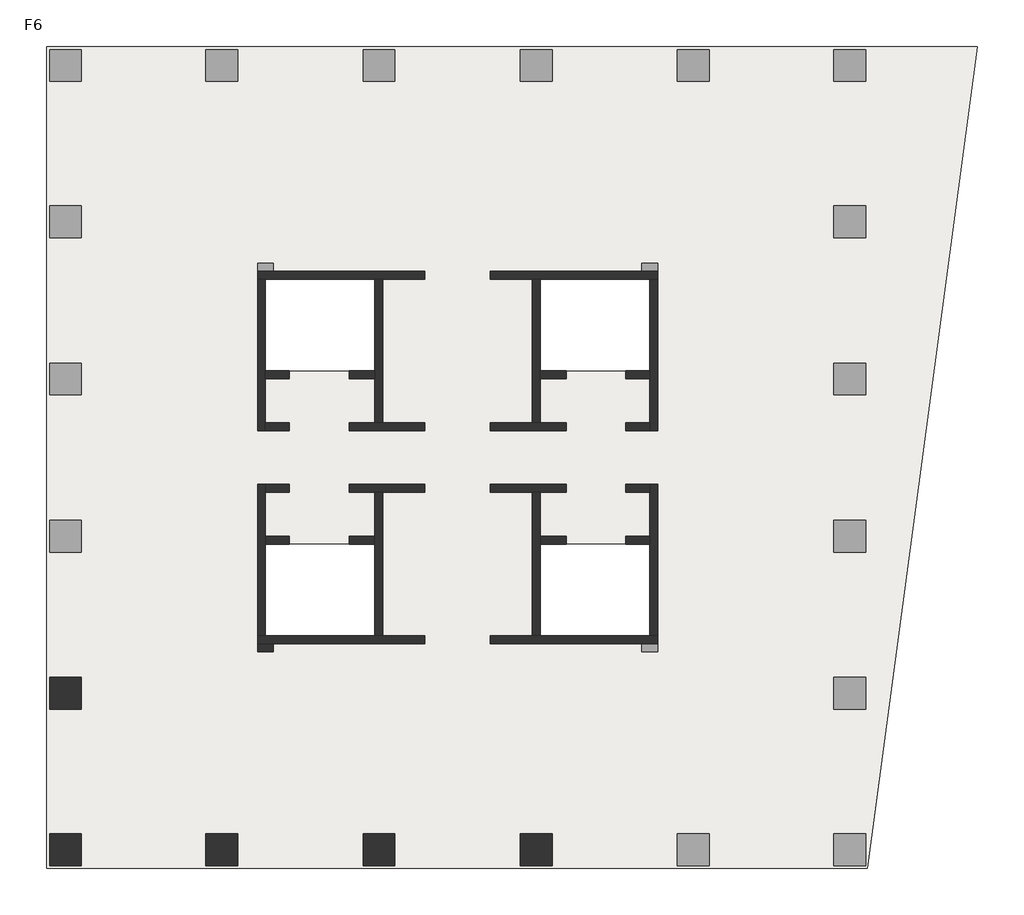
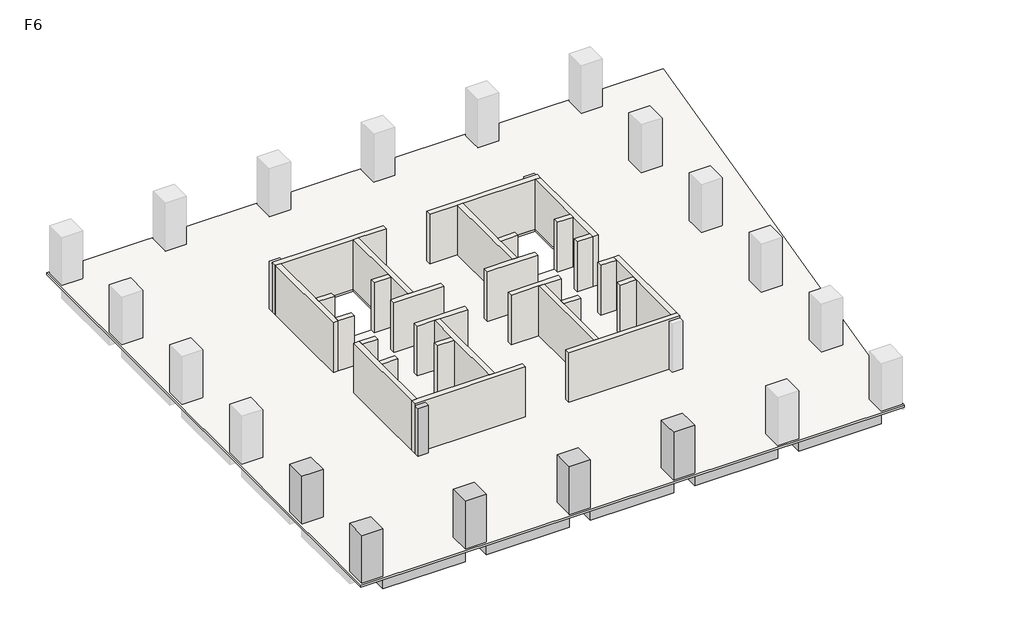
# One storey, part 1 of 2: 28 walls, 6 columns, 5 beams, 1 slab.
"""IFC4 building model written with IfcOpenShell, lengths in millimetres."""

import ifcopenshell
import ifcopenshell.guid

model = None  # the IFC model being written
_history = None  # IfcOwnerHistory: only IFC2X3 demands one
_inside = {}  # id of a spatial element -> (the spatial element, [elements in it])
_under = {}  # id of a project, library or spatial element -> (it, [spatial elements below it])
_declared = {}  # id of a project -> (the project, [libraries it declares])
_typed = {}  # id of a type object -> (the type object, [elements of that type])
_made_of = {}  # id of a material, layer set ... -> (it, [elements and type objects made of it])


def new_model(schema):
    """Start an empty IFC model of exactly this schema.

    Asked for "IFC4X3", IfcOpenShell would pick the latest addendum, in which some entities
    have other attributes; the version numbers below select the first issue.
    IFC2X3 requires an IfcOwnerHistory on every rooted entity: one is made here for all.
    """
    global model, _history
    if schema == "IFC4X3":
        model = ifcopenshell.file(schema_version=(4, 3, 0, 0))
    else:
        model = ifcopenshell.file(schema=schema)
    _inside.clear()
    _under.clear()
    _declared.clear()
    _typed.clear()
    _made_of.clear()
    _history = None
    if model.schema == "IFC2X3":
        org = make("IfcOrganization", Name="unknown")
        user = make(
            "IfcPersonAndOrganization",
            ThePerson=make("IfcPerson", FamilyName="unknown"),
            TheOrganization=org,
        )
        app = make(
            "IfcApplication",
            ApplicationDeveloper=org,
            Version="unknown",
            ApplicationFullName="unknown",
            ApplicationIdentifier="unknown",
        )
        _history = make(
            "IfcOwnerHistory",
            OwningUser=user,
            OwningApplication=app,
            ChangeAction="ADDED",
            CreationDate=0,
        )
    return model


def make(cls, **values):
    """One entity of the class cls with the attributes given. An attribute that is None is left unset."""
    return model.create_entity(
        cls, **{name: value for name, value in values.items() if value is not None}
    )


def rooted(cls, **values):
    """An entity with a GlobalId (a new one), such as an element, a storey or a relation."""
    return make(cls, GlobalId=ifcopenshell.guid.new(), OwnerHistory=_history, **values)


def si_unit(unit_type, name, prefix=None):
    """IfcSIUnit, for example si_unit("LENGTHUNIT", "METRE", prefix="MILLI")."""
    return make("IfcSIUnit", UnitType=unit_type, Prefix=prefix, Name=name)


def assignment(units):
    """IfcUnitAssignment: the units of a project."""
    return None if units is None else make("IfcUnitAssignment", Units=units)


def point(xyz):
    """IfcCartesianPoint."""
    return None if xyz is None else make("IfcCartesianPoint", Coordinates=xyz)


def direction(xyz):
    """IfcDirection."""
    return None if xyz is None else make("IfcDirection", DirectionRatios=xyz)


def frame(location, z_axis=None, x_axis=None):
    """IfcAxis2Placement3D, a coordinate frame: its origin and axes. An axis left out is left unset."""
    return make(
        "IfcAxis2Placement3D",
        Location=point(location),
        Axis=direction(z_axis),
        RefDirection=direction(x_axis),
    )


def origin():
    """The frame at (0, 0, 0) with its axes left unset."""
    return frame((0.0, 0.0, 0.0))


def place(relative_to, where):
    """IfcLocalPlacement: puts the frame where relative to a parent placement (None: the world)."""
    return make(
        "IfcLocalPlacement", PlacementRelTo=relative_to, RelativePlacement=where
    )


def context(
    kind, dimensions, precision=None, world=None, true_north=None, identifier=None
):
    """IfcGeometricRepresentationContext, for example the 3D "Model" context."""
    return make(
        "IfcGeometricRepresentationContext",
        ContextIdentifier=identifier,
        ContextType=kind,
        CoordinateSpaceDimension=dimensions,
        Precision=precision,
        WorldCoordinateSystem=world,
        TrueNorth=true_north,
    )


def project(units=None, contexts=None):
    """IfcProject with its units and contexts."""
    return rooted(
        "IfcProject",
        Name="project",
        RepresentationContexts=contexts,
        UnitsInContext=assignment(units),
    )


def spatial(cls, under=None, at=None, **own):
    """A site, building, storey or space (cls), placed at a placement, below another one or the project."""
    s = rooted(cls, ObjectPlacement=at, **own)
    if under is not None:
        _under.setdefault(under.id(), (under, []))[1].append(s)
    return s


def polyline(points):
    """IfcPolyline through the points."""
    return make("IfcPolyline", Points=[point(p) for p in points])


def outline(outer, holes=None, kind="AREA"):
    """IfcArbitraryClosedProfileDef: a profile drawn as a closed curve; with holes, ...WithVoids."""
    if holes is None:
        return make("IfcArbitraryClosedProfileDef", ProfileType=kind, OuterCurve=outer)
    return make(
        "IfcArbitraryProfileDefWithVoids",
        ProfileType=kind,
        OuterCurve=outer,
        InnerCurves=holes,
    )


def extrude(swept, where, along, depth):
    """IfcExtrudedAreaSolid: the profile swept, set in the frame where, extruded along a direction by depth."""
    return make(
        "IfcExtrudedAreaSolid",
        SweptArea=swept,
        Position=where,
        ExtrudedDirection=direction(along),
        Depth=depth,
    )


def faces_of(points, faces, orient=None, outer=None):
    """IfcFace entities. A face is a list of loops; a loop is a list of indices into points, from 0.

    orient and outer hold one flag for each loop. By default every Orientation is true, the
    first loop of a face is its IfcFaceOuterBound and the others are IfcFaceBound.
    """
    made = []
    for i, loops in enumerate(faces):
        bounds = []
        for j, loop in enumerate(loops):
            is_outer = j == 0 if outer is None else outer[i][j]
            bounds.append(
                make(
                    "IfcFaceOuterBound" if is_outer else "IfcFaceBound",
                    Bound=make("IfcPolyLoop", Polygon=[points[k] for k in loop]),
                    Orientation=True if orient is None else orient[i][j],
                )
            )
        made.append(make("IfcFace", Bounds=bounds))
    return made


def faceted_brep(points, faces, orient=None, outer=None, voids=None):
    """IfcFacetedBrep: a solid bounded by flat faces; with voids (closed shells), ...WithVoids."""
    shared = [point(p) for p in points]
    hull = make("IfcClosedShell", CfsFaces=faces_of(shared, faces, orient, outer))
    if voids is None:
        return make("IfcFacetedBrep", Outer=hull)
    return make(
        "IfcFacetedBrepWithVoids",
        Outer=hull,
        Voids=[
            make(cls, CfsFaces=faces_of(shared, fs, o, b)) for cls, fs, o, b in voids
        ],
    )


def shape(context_of_items, identifier, shape_type, items):
    """IfcShapeRepresentation: the items that make up one representation, for example the "Body"."""
    return make(
        "IfcShapeRepresentation",
        ContextOfItems=context_of_items,
        RepresentationIdentifier=identifier,
        RepresentationType=shape_type,
        Items=items,
    )


def made_of(thing, what):
    """Note that an element or type object is made of a material, layer set ...; save() writes the relation."""
    if what is not None:
        _made_of.setdefault(what.id(), (what, []))[1].append(thing)
    return thing


def element(
    cls,
    number,
    at=None,
    inside=None,
    cuts=None,
    type_object=None,
    material=None,
    context=None,
    identifier="Body",
    shape_type=None,
    held_by="IfcProductDefinitionShape",
    body=None,
    shapes=None,
    **own,
):
    """One element of the class cls, such as IfcWall. Its Tag is "e" and its number.

    at: its placement. inside: the storey or other place that contains it. cuts: it is an
    opening in that element (IfcRelVoidsElement). A single representation is given by context,
    identifier, shape_type and body (its items); several are given by shapes. held_by: the class
    of the entity that holds the representations. save() writes the other relations.
    """
    e = rooted(cls, Tag="e%d" % number, ObjectPlacement=at, **own)
    if body is not None:
        shapes = [shape(context, identifier, shape_type, body)]
    if shapes is not None:
        e.Representation = make(held_by, Representations=shapes)
    if inside is not None:
        _inside.setdefault(inside.id(), (inside, []))[1].append(e)
    if cuts is not None:
        rooted(
            "IfcRelVoidsElement", RelatingBuildingElement=cuts, RelatedOpeningElement=e
        )
    if type_object is not None:
        _typed.setdefault(type_object.id(), (type_object, []))[1].append(e)
    return made_of(e, material)


def aggregate(whole, parts):
    """IfcRelAggregates: a whole, such as a stair, and the parts it consists of."""
    return rooted("IfcRelAggregates", RelatingObject=whole, RelatedObjects=parts)


def save(model, path):
    """Write the relations noted so far, then the file.

    IfcRelAggregates (storeys below a building ...), IfcRelContainedInSpatialStructure (elements
    in a storey), IfcRelDefinesByType, IfcRelAssociatesMaterial and IfcRelDeclares: one each for
    every whole, place, type object, material and project.
    """
    for whole, parts in _under.values():
        aggregate(whole, parts)
    for where, things in _inside.values():
        rooted(
            "IfcRelContainedInSpatialStructure",
            RelatedElements=things,
            RelatingStructure=where,
        )
    for kind, things in _typed.values():
        rooted("IfcRelDefinesByType", RelatedObjects=things, RelatingType=kind)
    for what, things in _made_of.values():
        rooted("IfcRelAssociatesMaterial", RelatedObjects=things, RelatingMaterial=what)
    for by, libraries in _declared.values():
        rooted("IfcRelDeclares", RelatingContext=by, RelatedDefinitions=libraries)
    model.write(path)


model = new_model("IFC4")

# Units and contexts
model_context = context("Model", 3, world=origin())
ifc_project = project(units=[si_unit("LENGTHUNIT", "METRE", prefix="MILLI")], contexts=[model_context])

# Site, building, storey
site = spatial("IfcSite", under=ifc_project)
building = spatial("IfcBuilding", under=site)
storey = spatial("IfcBuildingStorey", under=building, Name="F6", Elevation=24000.0)

# Beams
placement = place(None, origin())
element("IfcBeam", 1, ObjectType="混凝土 - 矩形梁 : KL(5)-800x1000", at=placement, inside=storey, context=model_context, shape_type="SweptSolid", body=[
    extrude(outline(polyline([(-12472.6742169, -13948.9501342), (-12472.6742169, -13148.9501342), (-6222.6742169, -13148.9501342), (-6222.6742169, -13948.9501342), (-12472.6742169, -13948.9501342)])), frame((0.0, 0.0, 23000.0), z_axis=(0.0, 0.0, 1.0), x_axis=(1.0, 0.0, 0.0)), (0.0, 0.0, 1.0), 840.0),
    extrude(outline(polyline([(25327.3257831, -13148.9501342), (25327.3257831, -13948.9501342), (19077.3257831, -13948.9501342), (19077.3257831, -13148.9501342), (25327.3257831, -13148.9501342)])), frame((0.0, 0.0, 23000.0), z_axis=(0.0, 0.0, 1.0), x_axis=(1.0, 0.0, 0.0)), (0.0, 0.0, 1.0), 840.0),
    extrude(outline(polyline([(-4622.6742169, -13948.9501342), (-4622.6742169, -13148.9501342), (1677.3257831, -13148.9501342), (1677.3257831, -13948.9501342), (-4622.6742169, -13948.9501342)])), frame((0.0, 0.0, 23000.0), z_axis=(0.0, 0.0, 1.0), x_axis=(1.0, 0.0, 0.0)), (0.0, 0.0, 1.0), 840.0),
    extrude(outline(polyline([(3277.3257831, -13948.9501342), (3277.3257831, -13148.9501342), (9577.3257831, -13148.9501342), (9577.3257831, -13948.9501342), (3277.3257831, -13948.9501342)])), frame((0.0, 0.0, 23000.0), z_axis=(0.0, 0.0, 1.0), x_axis=(1.0, 0.0, 0.0)), (0.0, 0.0, 1.0), 840.0),
    extrude(outline(polyline([(11177.3257831, -13948.9501342), (11177.3257831, -13148.9501342), (17477.3257831, -13148.9501342), (17477.3257831, -13948.9501342), (11177.3257831, -13948.9501342)])), frame((0.0, 0.0, 23000.0), z_axis=(0.0, 0.0, 1.0), x_axis=(1.0, 0.0, 0.0)), (0.0, 0.0, 1.0), 840.0),
])
element("IfcBeam", 2, ObjectType="混凝土 - 矩形梁 : L1-800x500", at=placement, inside=storey, context=model_context, shape_type="Brep", body=[
    faceted_brep([(-12472.6742169, -5512.1353397, 23500.0), (-3746.9473979, -3341.556529, 23500.0), (-3173.6696907, -3198.9501342, 23500.0), (-3173.6696907, -3198.9501342, 23840.0), (-3746.9473979, -3341.556529, 23840.0), (-12472.6742169, -5512.1353397, 23840.0), (-3622.6742169, -3198.9501342, 23500.0), (-12472.6742169, -4687.7549784, 23500.0), (-3622.6742169, -2486.2624411, 23500.0), (-3622.6742169, -2798.9501342, 23500.0), (-12472.6742169, -4687.7549784, 23840.0), (-3622.6742169, -2486.2624411, 23840.0), (-3622.6742169, -3198.9501342, 23840.0)], [[[0, 1, 2, 3, 4, 5]], [[6, 2, 1, 0, 7, 8, 9]], [[8, 7, 10, 11]], [[2, 6, 12, 3]], [[9, 8, 11, 12, 6]], [[7, 0, 5, 10]], [[5, 4, 3, 12, 11, 10]]]),
])
element("IfcBeam", 3, ObjectType="混凝土 - 矩形梁 : L1-800x500", at=placement, inside=storey, context=model_context, shape_type="SweptSolid", body=[
    extrude(outline(polyline([(-3746.9473979, -3341.556529), (-3173.6696907, -3198.9501342), (-2898.7618154, -3198.9501342), (-4843.6893517, -12348.9501342), (-5661.5624638, -12348.9501342), (-3746.9473979, -3341.556529)])), frame((0.0, 0.0, 23500.0), z_axis=(0.0, 0.0, 1.0), x_axis=(1.0, 0.0, 0.0)), (0.0, 0.0, 1.0), 340.0),
])
element("IfcBeam", 4, ObjectType="混凝土 - 矩形梁 : L1-800x500", at=placement, inside=storey, context=model_context, shape_type="SweptSolid", body=[
    extrude(outline(polyline([(2877.3257831, -12348.9501342), (2077.3257831, -12348.9501342), (2077.3257831, -2798.9501342), (2877.3257831, -2798.9501342), (2877.3257831, -12348.9501342)])), frame((0.0, 0.0, 23500.0), z_axis=(0.0, 0.0, 1.0), x_axis=(1.0, 0.0, 0.0)), (0.0, 0.0, 1.0), 340.0),
])
element("IfcBeam", 5, ObjectType="混凝土 - 矩形梁 : L1-800x500", at=placement, inside=storey, context=model_context, shape_type="SweptSolid", body=[
    extrude(outline(polyline([(10777.3257831, -12348.9501342), (9977.3257831, -12348.9501342), (9977.3257831, -2798.9501342), (10777.3257831, -2798.9501342), (10777.3257831, -12348.9501342)])), frame((0.0, 0.0, 23500.0), z_axis=(0.0, 0.0, 1.0), x_axis=(1.0, 0.0, 0.0)), (0.0, 0.0, 1.0), 340.0),
])

# Columns
element("IfcColumn", 6, ObjectType="混凝土 - 矩形 - 柱 : Z1-1600x1600", at=placement, inside=storey, context=model_context, shape_type="Brep", body=[
    faceted_brep([(-12472.6742169, -4498.9501342, 24000.0), (-12472.6742169, -6098.9501342, 24000.0), (-14072.6742169, -6098.9501342, 24000.0), (-14072.6742169, -4498.9501342, 24000.0), (-12472.6742169, -4498.9501342, 27840.0), (-12472.6742169, -6098.9501342, 27840.0), (-13272.6742169, -6098.9501342, 27840.0), (-14072.6742169, -6098.9501342, 27840.0), (-14072.6742169, -6098.9501342, 27000.0), (-14072.6742169, -4498.9501342, 27840.0), (-14072.6742169, -4498.9501342, 27000.0), (-13272.6742169, -4498.9501342, 27840.0)], [[[0, 1, 2, 3]], [[1, 0, 4, 5]], [[2, 1, 5, 6, 7, 8]], [[3, 2, 8, 7, 9, 10]], [[0, 3, 10, 9, 11, 4]], [[5, 4, 11, 9, 7, 6]]]),
])
element("IfcColumn", 7, ObjectType="混凝土 - 矩形 - 柱 : Z1-1600x1600", at=placement, inside=storey, context=model_context, shape_type="SweptSolid", body=[
    extrude(outline(polyline([(-12472.6742169, -12348.9501342), (-12472.6742169, -13948.9501342), (-14072.6742169, -13948.9501342), (-14072.6742169, -12348.9501342), (-12472.6742169, -12348.9501342)])), frame((0.0, 0.0, 24000.0), z_axis=(0.0, 0.0, 1.0), x_axis=(1.0, 0.0, 0.0)), (0.0, 0.0, 1.0), 3840.0),
])
element("IfcColumn", 8, ObjectType="混凝土 - 矩形 - 柱 : Z1-1600x1600", at=placement, inside=storey, context=model_context, shape_type="Brep", body=[
    faceted_brep([(-4622.6742169, -12348.9501342, 24000.0), (-4622.6742169, -13948.9501342, 24000.0), (-6222.6742169, -13948.9501342, 24000.0), (-6222.6742169, -12348.9501342, 24000.0), (-4622.6742169, -12348.9501342, 27840.0), (-4622.6742169, -13148.9501342, 27840.0), (-4622.6742169, -13948.9501342, 27840.0), (-4622.6742169, -13948.9501342, 27000.0), (-6222.6742169, -13948.9501342, 27840.0), (-6222.6742169, -13948.9501342, 27000.0), (-6222.6742169, -13148.9501342, 27840.0), (-6222.6742169, -12348.9501342, 27840.0)], [[[0, 1, 2, 3]], [[1, 0, 4, 5, 6, 7]], [[2, 1, 7, 6, 8, 9]], [[3, 2, 9, 8, 10, 11]], [[0, 3, 11, 4]], [[6, 5, 4, 11, 10, 8]]]),
])
element("IfcColumn", 9, ObjectType="混凝土 - 矩形 - 柱 : Z1-1600x1600", at=placement, inside=storey, context=model_context, shape_type="Brep", body=[
    faceted_brep([(3277.3257831, -12348.9501342, 24000.0), (3277.3257831, -13948.9501342, 24000.0), (1677.3257831, -13948.9501342, 24000.0), (1677.3257831, -12348.9501342, 24000.0), (3277.3257831, -12348.9501342, 27840.0), (3277.3257831, -13148.9501342, 27840.0), (3277.3257831, -13948.9501342, 27840.0), (3277.3257831, -13948.9501342, 27000.0), (1677.3257831, -13948.9501342, 27840.0), (1677.3257831, -13948.9501342, 27000.0), (1677.3257831, -13148.9501342, 27840.0), (1677.3257831, -12348.9501342, 27840.0)], [[[0, 1, 2, 3]], [[1, 0, 4, 5, 6, 7]], [[2, 1, 7, 6, 8, 9]], [[3, 2, 9, 8, 10, 11]], [[0, 3, 11, 4]], [[6, 5, 4, 11, 10, 8]]]),
])
element("IfcColumn", 10, ObjectType="混凝土 - 矩形 - 柱 : Z1-1600x1600", at=placement, inside=storey, context=model_context, shape_type="Brep", body=[
    faceted_brep([(11177.3257831, -12348.9501342, 24000.0), (11177.3257831, -13948.9501342, 24000.0), (9577.3257831, -13948.9501342, 24000.0), (9577.3257831, -12348.9501342, 24000.0), (11177.3257831, -12348.9501342, 27840.0), (11177.3257831, -13148.9501342, 27840.0), (11177.3257831, -13948.9501342, 27840.0), (11177.3257831, -13948.9501342, 27000.0), (9577.3257831, -13948.9501342, 27840.0), (9577.3257831, -13948.9501342, 27000.0), (9577.3257831, -13148.9501342, 27840.0), (9577.3257831, -12348.9501342, 27840.0)], [[[0, 1, 2, 3]], [[1, 0, 4, 5, 6, 7]], [[2, 1, 7, 6, 8, 9]], [[3, 2, 9, 8, 10, 11]], [[0, 3, 11, 4]], [[6, 5, 4, 11, 10, 8]]]),
])
element("IfcColumn", 11, ObjectType="混凝土 - 矩形 - 柱 : Z2-800x800", at=placement, inside=storey, context=model_context, shape_type="SweptSolid", body=[
    extrude(outline(polyline([(-2822.6742169, -3198.9501342), (-3622.6742169, -3198.9501342), (-3622.6742169, -2798.9501342), (-2822.6742169, -2798.9501342), (-2822.6742169, -3198.9501342)])), frame((0.0, 0.0, 24000.0), z_axis=(0.0, 0.0, 1.0), x_axis=(1.0, 0.0, 0.0)), (0.0, 0.0, 1.0), 3840.0),
])

# Slab
element("IfcSlab", 12, ObjectType="LB-160", at=placement, inside=storey, context=model_context, shape_type="Brep", body=[
    faceted_brep([(32549.4477343, 27201.0498658, 23840.0), (32422.0087099, 26251.0498658, 23840.0), (27029.3257831, -13948.9501342, 23840.0), (27011.0393465, -14085.2672073, 23840.0), (-14222.6742169, -14085.2672073, 23840.0), (-14222.6742169, 27201.0498658, 23840.0), (2277.3257831, 15501.0498658, 23840.0), (-3222.6742169, 15501.0498658, 23840.0), (-3222.6742169, 10901.0498658, 23840.0), (2277.3257831, 10901.0498658, 23840.0), (2277.3257831, 2201.0498658, 23840.0), (-3222.6742169, 2201.0498658, 23840.0), (-3222.6742169, -2398.9501342, 23840.0), (2277.3257831, -2398.9501342, 23840.0), (16077.3257831, 2201.0498658, 23840.0), (10577.3257831, 2201.0498658, 23840.0), (10577.3257831, -2398.9501342, 23840.0), (16077.3257831, -2398.9501342, 23840.0), (16077.3257831, 15501.0498658, 23840.0), (10577.3257831, 15501.0498658, 23840.0), (10577.3257831, 10901.0498658, 23840.0), (16077.3257831, 10901.0498658, 23840.0), (32549.4477343, 27201.0498658, 24000.0), (-14222.6742169, 27201.0498658, 24000.0), (-14222.6742169, -14085.2672073, 24000.0), (27011.0393465, -14085.2672073, 24000.0), (2277.3257831, 15501.0498658, 24000.0), (2277.3257831, 10901.0498658, 24000.0), (-3222.6742169, 10901.0498658, 24000.0), (-3222.6742169, 15501.0498658, 24000.0), (2277.3257831, 2201.0498658, 24000.0), (2277.3257831, -2398.9501342, 24000.0), (-3222.6742169, -2398.9501342, 24000.0), (-3222.6742169, 2201.0498658, 24000.0), (16077.3257831, 2201.0498658, 24000.0), (16077.3257831, -2398.9501342, 24000.0), (10577.3257831, -2398.9501342, 24000.0), (10577.3257831, 2201.0498658, 24000.0), (16077.3257831, 15501.0498658, 24000.0), (16077.3257831, 10901.0498658, 24000.0), (10577.3257831, 10901.0498658, 24000.0), (10577.3257831, 15501.0498658, 24000.0)], [[[0, 1, 2, 3, 4, 5], [6, 7, 8, 9], [10, 11, 12, 13], [14, 15, 16, 17], [18, 19, 20, 21]], [[22, 23, 24, 25], [26, 27, 28, 29], [30, 31, 32, 33], [34, 35, 36, 37], [38, 39, 40, 41]], [[3, 2, 1, 0, 22, 25]], [[4, 3, 25, 24]], [[5, 4, 24, 23]], [[0, 5, 23, 22]], [[7, 6, 26, 29]], [[8, 7, 29, 28]], [[9, 8, 28, 27]], [[6, 9, 27, 26]], [[11, 10, 30, 33]], [[12, 11, 33, 32]], [[13, 12, 32, 31]], [[10, 13, 31, 30]], [[15, 14, 34, 37]], [[16, 15, 37, 36]], [[17, 16, 36, 35]], [[14, 17, 35, 34]], [[19, 18, 38, 41]], [[20, 19, 41, 40]], [[21, 20, 40, 39]], [[18, 21, 39, 38]]]),
])

# Walls
element("IfcWall", 13, ObjectType="剪力墙-400", at=placement, inside=storey, context=model_context, shape_type="Brep", body=[
    faceted_brep([(-3622.6742169, 15501.0498658, 24000.0), (-3222.6742169, 15501.0498658, 24000.0), (2277.3257831, 15501.0498658, 24000.0), (2677.3257831, 15501.0498658, 24000.0), (4777.3257831, 15501.0498658, 24000.0), (4777.3257831, 15501.0498658, 28000.0), (2677.3257831, 15501.0498658, 28000.0), (2277.3257831, 15501.0498658, 28000.0), (-3222.6742169, 15501.0498658, 28000.0), (-3622.6742169, 15501.0498658, 28000.0), (-3622.6742169, 15901.0498658, 24000.0), (-3622.6742169, 15901.0498658, 27840.0), (-3622.6742169, 15901.0498658, 28000.0), (4777.3257831, 15901.0498658, 28000.0), (4777.3257831, 15901.0498658, 24000.0), (-2822.6742169, 15901.0498658, 24000.0)], [[[0, 1, 2, 3, 4, 5, 6, 7, 8, 9]], [[10, 11, 12, 13, 14, 15]], [[4, 3, 2, 1, 0, 10, 15, 14]], [[5, 4, 14, 13]], [[9, 8, 7, 6, 5, 13, 12]], [[0, 9, 12, 11, 10]]]),
])
element("IfcWall", 14, ObjectType="剪力墙-400", at=placement, inside=storey, context=model_context, shape_type="Brep", body=[
    faceted_brep([(2277.3257831, 15501.0498658, 24000.0), (2277.3257831, 10901.0498658, 24000.0), (2277.3257831, 10501.0498658, 24000.0), (2277.3257831, 8301.0498658, 24000.0), (2277.3257831, 8301.0498658, 28000.0), (2277.3257831, 10501.0498658, 28000.0), (2277.3257831, 10901.0498658, 28000.0), (2277.3257831, 15501.0498658, 28000.0), (2677.3257831, 15501.0498658, 24000.0), (2677.3257831, 15501.0498658, 28000.0), (2677.3257831, 8301.0498658, 28000.0), (2677.3257831, 8301.0498658, 24000.0)], [[[0, 1, 2, 3, 4, 5, 6, 7]], [[8, 9, 10, 11]], [[3, 2, 1, 0, 8, 11]], [[7, 6, 5, 4, 10, 9]], [[0, 7, 9, 8]], [[4, 3, 11, 10]]]),
])
element("IfcWall", 15, ObjectType="剪力墙-400", at=placement, inside=storey, context=model_context, shape_type="Brep", body=[
    faceted_brep([(-3622.6742169, 15501.0498658, 24000.0), (-3622.6742169, 7901.0498658, 24000.0), (-3622.6742169, 7901.0498658, 28000.0), (-3622.6742169, 15501.0498658, 28000.0), (-3222.6742169, 15501.0498658, 24000.0), (-3222.6742169, 15501.0498658, 28000.0), (-3222.6742169, 10901.0498658, 28000.0), (-3222.6742169, 10501.0498658, 28000.0), (-3222.6742169, 8301.0498658, 28000.0), (-3222.6742169, 7901.0498658, 28000.0), (-3222.6742169, 7901.0498658, 24000.0), (-3222.6742169, 8301.0498658, 24000.0), (-3222.6742169, 10501.0498658, 24000.0), (-3222.6742169, 10901.0498658, 24000.0)], [[[0, 1, 2, 3]], [[4, 5, 6, 7, 8, 9, 10, 11, 12, 13]], [[1, 0, 4, 13, 12, 11, 10]], [[3, 2, 9, 8, 7, 6, 5]], [[0, 3, 5, 4]], [[2, 1, 10, 9]]]),
])
element("IfcWall", 16, ObjectType="剪力墙-400", at=placement, inside=storey, context=model_context, shape_type="SweptSolid", body=[
    extrude(outline(polyline([(-2022.6742169, 7901.0498658), (-3222.6742169, 7901.0498658), (-3222.6742169, 8301.0498658), (-2022.6742169, 8301.0498658), (-2022.6742169, 7901.0498658)])), frame((0.0, 0.0, 24000.0), z_axis=(0.0, 0.0, 1.0), x_axis=(1.0, 0.0, 0.0)), (0.0, 0.0, 1.0), 4000.0),
])
element("IfcWall", 17, ObjectType="剪力墙-400", at=placement, inside=storey, context=model_context, shape_type="Brep", body=[
    faceted_brep([(977.3257831, 7901.0498658, 24000.0), (4777.3257831, 7901.0498658, 24000.0), (4777.3257831, 7901.0498658, 28000.0), (977.3257831, 7901.0498658, 28000.0), (977.3257831, 8301.0498658, 24000.0), (977.3257831, 8301.0498658, 28000.0), (2277.3257831, 8301.0498658, 28000.0), (2677.3257831, 8301.0498658, 28000.0), (4777.3257831, 8301.0498658, 28000.0), (4777.3257831, 8301.0498658, 24000.0), (2677.3257831, 8301.0498658, 24000.0), (2277.3257831, 8301.0498658, 24000.0)], [[[0, 1, 2, 3]], [[4, 5, 6, 7, 8, 9, 10, 11]], [[1, 0, 4, 11, 10, 9]], [[2, 1, 9, 8]], [[3, 2, 8, 7, 6, 5]], [[0, 3, 5, 4]]]),
])
element("IfcWall", 18, ObjectType="剪力墙-400", at=placement, inside=storey, context=model_context, shape_type="SweptSolid", body=[
    extrude(outline(polyline([(-2022.6742169, 10501.0498658), (-3222.6742169, 10501.0498658), (-3222.6742169, 10901.0498658), (-2022.6742169, 10901.0498658), (-2022.6742169, 10501.0498658)])), frame((0.0, 0.0, 24000.0), z_axis=(0.0, 0.0, 1.0), x_axis=(1.0, 0.0, 0.0)), (0.0, 0.0, 1.0), 4000.0),
])
element("IfcWall", 19, ObjectType="剪力墙-400", at=placement, inside=storey, context=model_context, shape_type="SweptSolid", body=[
    extrude(outline(polyline([(2277.3257831, 10501.0498658), (977.3257831, 10501.0498658), (977.3257831, 10901.0498658), (2277.3257831, 10901.0498658), (2277.3257831, 10501.0498658)])), frame((0.0, 0.0, 24000.0), z_axis=(0.0, 0.0, 1.0), x_axis=(1.0, 0.0, 0.0)), (0.0, 0.0, 1.0), 4000.0),
])
element("IfcWall", 20, ObjectType="剪力墙-400", at=placement, inside=storey, context=model_context, shape_type="Brep", body=[
    faceted_brep([(16477.3257831, 15901.0498658, 24000.0), (15677.3257831, 15901.0498658, 24000.0), (8077.3257831, 15901.0498658, 24000.0), (8077.3257831, 15901.0498658, 28000.0), (16477.3257831, 15901.0498658, 28000.0), (16477.3257831, 15901.0498658, 27840.0), (16477.3257831, 15501.0498658, 24000.0), (16477.3257831, 15501.0498658, 28000.0), (16077.3257831, 15501.0498658, 28000.0), (10577.3257831, 15501.0498658, 28000.0), (10177.3257831, 15501.0498658, 28000.0), (8077.3257831, 15501.0498658, 28000.0), (8077.3257831, 15501.0498658, 24000.0), (10177.3257831, 15501.0498658, 24000.0), (10577.3257831, 15501.0498658, 24000.0), (16077.3257831, 15501.0498658, 24000.0)], [[[0, 1, 2, 3, 4, 5]], [[6, 7, 8, 9, 10, 11, 12, 13, 14, 15]], [[2, 1, 0, 6, 15, 14, 13, 12]], [[3, 2, 12, 11]], [[4, 3, 11, 10, 9, 8, 7]], [[0, 5, 4, 7, 6]]]),
])
element("IfcWall", 21, ObjectType="剪力墙-400", at=placement, inside=storey, context=model_context, shape_type="Brep", body=[
    faceted_brep([(10177.3257831, 15501.0498658, 24000.0), (10177.3257831, 8301.0498658, 24000.0), (10177.3257831, 8301.0498658, 28000.0), (10177.3257831, 15501.0498658, 28000.0), (10577.3257831, 15501.0498658, 24000.0), (10577.3257831, 15501.0498658, 28000.0), (10577.3257831, 10901.0498658, 28000.0), (10577.3257831, 10501.0498658, 28000.0), (10577.3257831, 8301.0498658, 28000.0), (10577.3257831, 8301.0498658, 24000.0), (10577.3257831, 10501.0498658, 24000.0), (10577.3257831, 10901.0498658, 24000.0)], [[[0, 1, 2, 3]], [[4, 5, 6, 7, 8, 9, 10, 11]], [[1, 0, 4, 11, 10, 9]], [[3, 2, 8, 7, 6, 5]], [[0, 3, 5, 4]], [[2, 1, 9, 8]]]),
])
element("IfcWall", 22, ObjectType="剪力墙-400", at=placement, inside=storey, context=model_context, shape_type="Brep", body=[
    faceted_brep([(16077.3257831, 15501.0498658, 24000.0), (16077.3257831, 10901.0498658, 24000.0), (16077.3257831, 10501.0498658, 24000.0), (16077.3257831, 8301.0498658, 24000.0), (16077.3257831, 7901.0498658, 24000.0), (16077.3257831, 7901.0498658, 28000.0), (16077.3257831, 8301.0498658, 28000.0), (16077.3257831, 10501.0498658, 28000.0), (16077.3257831, 10901.0498658, 28000.0), (16077.3257831, 15501.0498658, 28000.0), (16477.3257831, 15501.0498658, 24000.0), (16477.3257831, 15501.0498658, 28000.0), (16477.3257831, 7901.0498658, 28000.0), (16477.3257831, 7901.0498658, 24000.0)], [[[0, 1, 2, 3, 4, 5, 6, 7, 8, 9]], [[10, 11, 12, 13]], [[4, 3, 2, 1, 0, 10, 13]], [[9, 8, 7, 6, 5, 12, 11]], [[0, 9, 11, 10]], [[5, 4, 13, 12]]]),
])
element("IfcWall", 23, ObjectType="剪力墙-400", at=placement, inside=storey, context=model_context, shape_type="SweptSolid", body=[
    extrude(outline(polyline([(14877.3257831, 8301.0498658), (16077.3257831, 8301.0498658), (16077.3257831, 7901.0498658), (14877.3257831, 7901.0498658), (14877.3257831, 8301.0498658)])), frame((0.0, 0.0, 24000.0), z_axis=(0.0, 0.0, 1.0), x_axis=(1.0, 0.0, 0.0)), (0.0, 0.0, 1.0), 4000.0),
])
element("IfcWall", 24, ObjectType="剪力墙-400", at=placement, inside=storey, context=model_context, shape_type="Brep", body=[
    faceted_brep([(11877.3257831, 8301.0498658, 24000.0), (10577.3257831, 8301.0498658, 24000.0), (10177.3257831, 8301.0498658, 24000.0), (8077.3257831, 8301.0498658, 24000.0), (8077.3257831, 8301.0498658, 28000.0), (10177.3257831, 8301.0498658, 28000.0), (10577.3257831, 8301.0498658, 28000.0), (11877.3257831, 8301.0498658, 28000.0), (11877.3257831, 7901.0498658, 24000.0), (11877.3257831, 7901.0498658, 28000.0), (8077.3257831, 7901.0498658, 28000.0), (8077.3257831, 7901.0498658, 24000.0)], [[[0, 1, 2, 3, 4, 5, 6, 7]], [[8, 9, 10, 11]], [[3, 2, 1, 0, 8, 11]], [[4, 3, 11, 10]], [[7, 6, 5, 4, 10, 9]], [[0, 7, 9, 8]]]),
])
element("IfcWall", 25, ObjectType="剪力墙-400", at=placement, inside=storey, context=model_context, shape_type="SweptSolid", body=[
    extrude(outline(polyline([(14877.3257831, 10901.0498658), (16077.3257831, 10901.0498658), (16077.3257831, 10501.0498658), (14877.3257831, 10501.0498658), (14877.3257831, 10901.0498658)])), frame((0.0, 0.0, 24000.0), z_axis=(0.0, 0.0, 1.0), x_axis=(1.0, 0.0, 0.0)), (0.0, 0.0, 1.0), 4000.0),
])
element("IfcWall", 26, ObjectType="剪力墙-400", at=placement, inside=storey, context=model_context, shape_type="SweptSolid", body=[
    extrude(outline(polyline([(10577.3257831, 10901.0498658), (11877.3257831, 10901.0498658), (11877.3257831, 10501.0498658), (10577.3257831, 10501.0498658), (10577.3257831, 10901.0498658)])), frame((0.0, 0.0, 24000.0), z_axis=(0.0, 0.0, 1.0), x_axis=(1.0, 0.0, 0.0)), (0.0, 0.0, 1.0), 4000.0),
])
element("IfcWall", 27, ObjectType="剪力墙-400", at=placement, inside=storey, context=model_context, shape_type="Brep", body=[
    faceted_brep([(-3622.6742169, -2798.9501342, 24000.0), (-2822.6742169, -2798.9501342, 24000.0), (4777.3257831, -2798.9501342, 24000.0), (4777.3257831, -2798.9501342, 28000.0), (-3622.6742169, -2798.9501342, 28000.0), (-3622.6742169, -2798.9501342, 27840.0), (-3622.6742169, -2398.9501342, 24000.0), (-3622.6742169, -2398.9501342, 28000.0), (-3222.6742169, -2398.9501342, 28000.0), (2277.3257831, -2398.9501342, 28000.0), (2677.3257831, -2398.9501342, 28000.0), (4777.3257831, -2398.9501342, 28000.0), (4777.3257831, -2398.9501342, 24000.0), (2677.3257831, -2398.9501342, 24000.0), (2277.3257831, -2398.9501342, 24000.0), (-3222.6742169, -2398.9501342, 24000.0)], [[[0, 1, 2, 3, 4, 5]], [[6, 7, 8, 9, 10, 11, 12, 13, 14, 15]], [[2, 1, 0, 6, 15, 14, 13, 12]], [[3, 2, 12, 11]], [[4, 3, 11, 10, 9, 8, 7]], [[0, 5, 4, 7, 6]]]),
])
element("IfcWall", 28, ObjectType="剪力墙-400", at=placement, inside=storey, context=model_context, shape_type="Brep", body=[
    faceted_brep([(2677.3257831, -2398.9501342, 24000.0), (2677.3257831, 4801.0498658, 24000.0), (2677.3257831, 4801.0498658, 28000.0), (2677.3257831, -2398.9501342, 28000.0), (2277.3257831, -2398.9501342, 24000.0), (2277.3257831, -2398.9501342, 28000.0), (2277.3257831, 2201.0498658, 28000.0), (2277.3257831, 2601.0498658, 28000.0), (2277.3257831, 4801.0498658, 28000.0), (2277.3257831, 4801.0498658, 24000.0), (2277.3257831, 2601.0498658, 24000.0), (2277.3257831, 2201.0498658, 24000.0)], [[[0, 1, 2, 3]], [[4, 5, 6, 7, 8, 9, 10, 11]], [[1, 0, 4, 11, 10, 9]], [[3, 2, 8, 7, 6, 5]], [[0, 3, 5, 4]], [[2, 1, 9, 8]]]),
])
element("IfcWall", 29, ObjectType="剪力墙-400", at=placement, inside=storey, context=model_context, shape_type="Brep", body=[
    faceted_brep([(-3222.6742169, -2398.9501342, 24000.0), (-3222.6742169, 2201.0498658, 24000.0), (-3222.6742169, 2601.0498658, 24000.0), (-3222.6742169, 4801.0498658, 24000.0), (-3222.6742169, 5201.0498658, 24000.0), (-3222.6742169, 5201.0498658, 28000.0), (-3222.6742169, 4801.0498658, 28000.0), (-3222.6742169, 2601.0498658, 28000.0), (-3222.6742169, 2201.0498658, 28000.0), (-3222.6742169, -2398.9501342, 28000.0), (-3622.6742169, -2398.9501342, 24000.0), (-3622.6742169, -2398.9501342, 28000.0), (-3622.6742169, 5201.0498658, 28000.0), (-3622.6742169, 5201.0498658, 24000.0)], [[[0, 1, 2, 3, 4, 5, 6, 7, 8, 9]], [[10, 11, 12, 13]], [[4, 3, 2, 1, 0, 10, 13]], [[9, 8, 7, 6, 5, 12, 11]], [[0, 9, 11, 10]], [[5, 4, 13, 12]]]),
])
element("IfcWall", 30, ObjectType="剪力墙-400", at=placement, inside=storey, context=model_context, shape_type="SweptSolid", body=[
    extrude(outline(polyline([(-2022.6742169, 4801.0498658), (-3222.6742169, 4801.0498658), (-3222.6742169, 5201.0498658), (-2022.6742169, 5201.0498658), (-2022.6742169, 4801.0498658)])), frame((0.0, 0.0, 24000.0), z_axis=(0.0, 0.0, 1.0), x_axis=(1.0, 0.0, 0.0)), (0.0, 0.0, 1.0), 4000.0),
])
element("IfcWall", 31, ObjectType="剪力墙-400", at=placement, inside=storey, context=model_context, shape_type="Brep", body=[
    faceted_brep([(977.3257831, 4801.0498658, 24000.0), (2277.3257831, 4801.0498658, 24000.0), (2677.3257831, 4801.0498658, 24000.0), (4777.3257831, 4801.0498658, 24000.0), (4777.3257831, 4801.0498658, 28000.0), (2677.3257831, 4801.0498658, 28000.0), (2277.3257831, 4801.0498658, 28000.0), (977.3257831, 4801.0498658, 28000.0), (977.3257831, 5201.0498658, 24000.0), (977.3257831, 5201.0498658, 28000.0), (4777.3257831, 5201.0498658, 28000.0), (4777.3257831, 5201.0498658, 24000.0)], [[[0, 1, 2, 3, 4, 5, 6, 7]], [[8, 9, 10, 11]], [[3, 2, 1, 0, 8, 11]], [[4, 3, 11, 10]], [[7, 6, 5, 4, 10, 9]], [[0, 7, 9, 8]]]),
])
element("IfcWall", 32, ObjectType="剪力墙-400", at=placement, inside=storey, context=model_context, shape_type="SweptSolid", body=[
    extrude(outline(polyline([(-2022.6742169, 2201.0498658), (-3222.6742169, 2201.0498658), (-3222.6742169, 2601.0498658), (-2022.6742169, 2601.0498658), (-2022.6742169, 2201.0498658)])), frame((0.0, 0.0, 24000.0), z_axis=(0.0, 0.0, 1.0), x_axis=(1.0, 0.0, 0.0)), (0.0, 0.0, 1.0), 4000.0),
])
element("IfcWall", 33, ObjectType="剪力墙-400", at=placement, inside=storey, context=model_context, shape_type="SweptSolid", body=[
    extrude(outline(polyline([(2277.3257831, 2201.0498658), (977.3257831, 2201.0498658), (977.3257831, 2601.0498658), (2277.3257831, 2601.0498658), (2277.3257831, 2201.0498658)])), frame((0.0, 0.0, 24000.0), z_axis=(0.0, 0.0, 1.0), x_axis=(1.0, 0.0, 0.0)), (0.0, 0.0, 1.0), 4000.0),
])
element("IfcWall", 34, ObjectType="剪力墙-400", at=placement, inside=storey, context=model_context, shape_type="Brep", body=[
    faceted_brep([(16477.3257831, -2398.9501342, 24000.0), (16077.3257831, -2398.9501342, 24000.0), (10577.3257831, -2398.9501342, 24000.0), (10177.3257831, -2398.9501342, 24000.0), (8077.3257831, -2398.9501342, 24000.0), (8077.3257831, -2398.9501342, 28000.0), (10177.3257831, -2398.9501342, 28000.0), (10577.3257831, -2398.9501342, 28000.0), (16077.3257831, -2398.9501342, 28000.0), (16477.3257831, -2398.9501342, 28000.0), (16477.3257831, -2798.9501342, 24000.0), (16477.3257831, -2798.9501342, 27840.0), (16477.3257831, -2798.9501342, 28000.0), (8077.3257831, -2798.9501342, 28000.0), (8077.3257831, -2798.9501342, 24000.0), (15677.3257831, -2798.9501342, 24000.0)], [[[0, 1, 2, 3, 4, 5, 6, 7, 8, 9]], [[10, 11, 12, 13, 14, 15]], [[4, 3, 2, 1, 0, 10, 15, 14]], [[5, 4, 14, 13]], [[9, 8, 7, 6, 5, 13, 12]], [[0, 9, 12, 11, 10]]]),
])
element("IfcWall", 35, ObjectType="剪力墙-400", at=placement, inside=storey, context=model_context, shape_type="Brep", body=[
    faceted_brep([(10577.3257831, -2398.9501342, 24000.0), (10577.3257831, 2201.0498658, 24000.0), (10577.3257831, 2601.0498658, 24000.0), (10577.3257831, 4801.0498658, 24000.0), (10577.3257831, 4801.0498658, 28000.0), (10577.3257831, 2601.0498658, 28000.0), (10577.3257831, 2201.0498658, 28000.0), (10577.3257831, -2398.9501342, 28000.0), (10177.3257831, -2398.9501342, 24000.0), (10177.3257831, -2398.9501342, 28000.0), (10177.3257831, 4801.0498658, 28000.0), (10177.3257831, 4801.0498658, 24000.0)], [[[0, 1, 2, 3, 4, 5, 6, 7]], [[8, 9, 10, 11]], [[3, 2, 1, 0, 8, 11]], [[7, 6, 5, 4, 10, 9]], [[0, 7, 9, 8]], [[4, 3, 11, 10]]]),
])
element("IfcWall", 36, ObjectType="剪力墙-400", at=placement, inside=storey, context=model_context, shape_type="Brep", body=[
    faceted_brep([(16477.3257831, -2398.9501342, 24000.0), (16477.3257831, 5201.0498658, 24000.0), (16477.3257831, 5201.0498658, 28000.0), (16477.3257831, -2398.9501342, 28000.0), (16077.3257831, -2398.9501342, 24000.0), (16077.3257831, -2398.9501342, 28000.0), (16077.3257831, 2201.0498658, 28000.0), (16077.3257831, 2601.0498658, 28000.0), (16077.3257831, 4801.0498658, 28000.0), (16077.3257831, 5201.0498658, 28000.0), (16077.3257831, 5201.0498658, 24000.0), (16077.3257831, 4801.0498658, 24000.0), (16077.3257831, 2601.0498658, 24000.0), (16077.3257831, 2201.0498658, 24000.0)], [[[0, 1, 2, 3]], [[4, 5, 6, 7, 8, 9, 10, 11, 12, 13]], [[1, 0, 4, 13, 12, 11, 10]], [[3, 2, 9, 8, 7, 6, 5]], [[0, 3, 5, 4]], [[2, 1, 10, 9]]]),
])
element("IfcWall", 37, ObjectType="剪力墙-400", at=placement, inside=storey, context=model_context, shape_type="SweptSolid", body=[
    extrude(outline(polyline([(14877.3257831, 5201.0498658), (16077.3257831, 5201.0498658), (16077.3257831, 4801.0498658), (14877.3257831, 4801.0498658), (14877.3257831, 5201.0498658)])), frame((0.0, 0.0, 24000.0), z_axis=(0.0, 0.0, 1.0), x_axis=(1.0, 0.0, 0.0)), (0.0, 0.0, 1.0), 4000.0),
])
element("IfcWall", 38, ObjectType="剪力墙-400", at=placement, inside=storey, context=model_context, shape_type="Brep", body=[
    faceted_brep([(11877.3257831, 5201.0498658, 24000.0), (8077.3257831, 5201.0498658, 24000.0), (8077.3257831, 5201.0498658, 28000.0), (11877.3257831, 5201.0498658, 28000.0), (11877.3257831, 4801.0498658, 24000.0), (11877.3257831, 4801.0498658, 28000.0), (10577.3257831, 4801.0498658, 28000.0), (10177.3257831, 4801.0498658, 28000.0), (8077.3257831, 4801.0498658, 28000.0), (8077.3257831, 4801.0498658, 24000.0), (10177.3257831, 4801.0498658, 24000.0), (10577.3257831, 4801.0498658, 24000.0)], [[[0, 1, 2, 3]], [[4, 5, 6, 7, 8, 9, 10, 11]], [[1, 0, 4, 11, 10, 9]], [[2, 1, 9, 8]], [[3, 2, 8, 7, 6, 5]], [[0, 3, 5, 4]]]),
])
element("IfcWall", 39, ObjectType="剪力墙-400", at=placement, inside=storey, context=model_context, shape_type="SweptSolid", body=[
    extrude(outline(polyline([(14877.3257831, 2601.0498658), (16077.3257831, 2601.0498658), (16077.3257831, 2201.0498658), (14877.3257831, 2201.0498658), (14877.3257831, 2601.0498658)])), frame((0.0, 0.0, 24000.0), z_axis=(0.0, 0.0, 1.0), x_axis=(1.0, 0.0, 0.0)), (0.0, 0.0, 1.0), 4000.0),
])
element("IfcWall", 40, ObjectType="剪力墙-400", at=placement, inside=storey, context=model_context, shape_type="SweptSolid", body=[
    extrude(outline(polyline([(10577.3257831, 2601.0498658), (11877.3257831, 2601.0498658), (11877.3257831, 2201.0498658), (10577.3257831, 2201.0498658), (10577.3257831, 2601.0498658)])), frame((0.0, 0.0, 24000.0), z_axis=(0.0, 0.0, 1.0), x_axis=(1.0, 0.0, 0.0)), (0.0, 0.0, 1.0), 4000.0),
])

save(model, "model.ifc")
